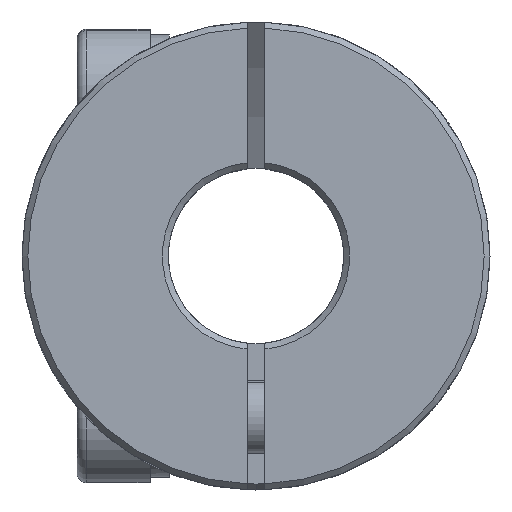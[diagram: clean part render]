
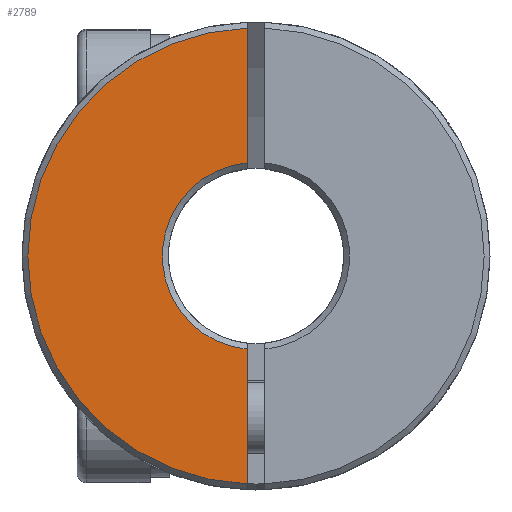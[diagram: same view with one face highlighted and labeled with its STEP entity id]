
A CAD part, front view. The second image highlights one B-rep face of the part: STEP entity #2789.
In plain terms, the highlighted planar face has unit normal (0, -1, 0).
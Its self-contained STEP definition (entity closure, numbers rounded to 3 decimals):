
#179 = CARTESIAN_POINT ( 'NONE',  ( 0., -15.02, 0. ) ) ;
#181 = CARTESIAN_POINT ( 'NONE',  ( -0.3, -15.02, -3.186 ) ) ;
#762 = VERTEX_POINT ( 'NONE', #3923 ) ;
#772 = CARTESIAN_POINT ( 'NONE',  ( -0.3, -15.02, 0. ) ) ;
#898 = AXIS2_PLACEMENT_3D ( 'NONE', #1145, #5292, #7614 ) ;
#1145 = CARTESIAN_POINT ( 'NONE',  ( 0., -15.02, 0. ) ) ;
#1551 = CIRCLE ( 'NONE', #3421, 7.8 ) ;
#1574 = ORIENTED_EDGE ( 'NONE', *, *, #4233, .F. ) ;
#1995 = EDGE_CURVE ( 'NONE', #762, #3079, #1551, .T. ) ;
#2264 = VECTOR ( 'NONE', #4916, 1000. ) ;
#2483 = DIRECTION ( 'NONE',  ( 0., 0., 1. ) ) ;
#2789 = ADVANCED_FACE ( 'NONE', ( #3394 ), #4270, .F. ) ;
#2857 = VERTEX_POINT ( 'NONE', #181 ) ;
#3079 = VERTEX_POINT ( 'NONE', #4042 ) ;
#3394 = FACE_OUTER_BOUND ( 'NONE', #5783, .T. ) ;
#3421 = AXIS2_PLACEMENT_3D ( 'NONE', #179, #4298, #7211 ) ;
#3532 = ORIENTED_EDGE ( 'NONE', *, *, #1995, .T. ) ;
#3574 = DIRECTION ( 'NONE',  ( 0., 0., -1. ) ) ;
#3923 = CARTESIAN_POINT ( 'NONE',  ( -0.3, -15.02, 7.794 ) ) ;
#3927 = LINE ( 'NONE', #772, #2264 ) ;
#4042 = CARTESIAN_POINT ( 'NONE',  ( -0.3, -15.02, -7.794 ) ) ;
#4233 = EDGE_CURVE ( 'NONE', #2857, #3079, #3927, .T. ) ;
#4270 = PLANE ( 'NONE',  #6701 ) ;
#4298 = DIRECTION ( 'NONE',  ( 0., -1., 0. ) ) ;
#4353 = ORIENTED_EDGE ( 'NONE', *, *, #5905, .T. ) ;
#4916 = DIRECTION ( 'NONE',  ( 0., 0., -1. ) ) ;
#4932 = VERTEX_POINT ( 'NONE', #5690 ) ;
#5124 = EDGE_CURVE ( 'NONE', #762, #4932, #5967, .T. ) ;
#5292 = DIRECTION ( 'NONE',  ( 0., 1., 0. ) ) ;
#5500 = VECTOR ( 'NONE', #3574, 1000. ) ;
#5690 = CARTESIAN_POINT ( 'NONE',  ( -0.3, -15.02, 3.186 ) ) ;
#5783 = EDGE_LOOP ( 'NONE', ( #6368, #3532, #1574, #4353 ) ) ;
#5905 = EDGE_CURVE ( 'NONE', #2857, #4932, #6695, .T. ) ;
#5967 = LINE ( 'NONE', #7017, #5500 ) ;
#6023 = CARTESIAN_POINT ( 'NONE',  ( 0., -15.02, 0. ) ) ;
#6368 = ORIENTED_EDGE ( 'NONE', *, *, #5124, .F. ) ;
#6618 = DIRECTION ( 'NONE',  ( 0., 1., 0. ) ) ;
#6695 = CIRCLE ( 'NONE', #898, 3.2 ) ;
#6701 = AXIS2_PLACEMENT_3D ( 'NONE', #6023, #6618, #2483 ) ;
#7017 = CARTESIAN_POINT ( 'NONE',  ( -0.3, -15.02, 0. ) ) ;
#7211 = DIRECTION ( 'NONE',  ( 0., 0., 1. ) ) ;
#7614 = DIRECTION ( 'NONE',  ( 0., 0., 1. ) ) ;
